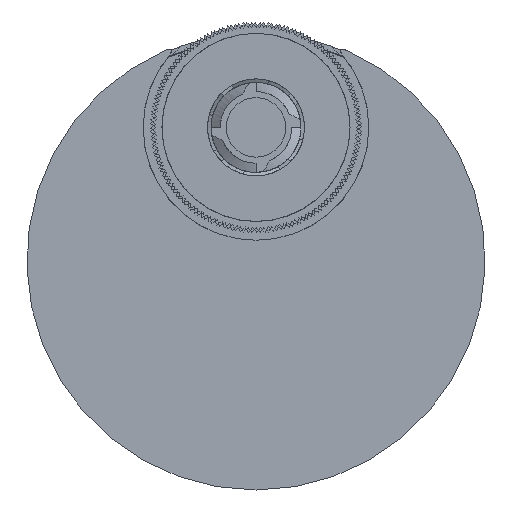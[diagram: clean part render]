
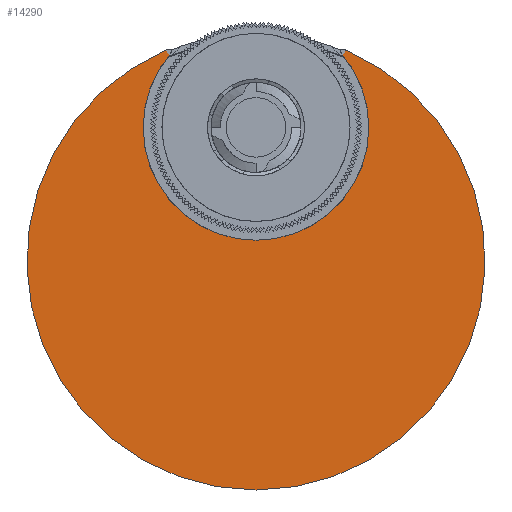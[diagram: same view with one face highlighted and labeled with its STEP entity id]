
A CAD part, front view. The second image highlights one B-rep face of the part: STEP entity #14290.
In plain terms, the highlighted planar face has unit normal (0, -1, 0).
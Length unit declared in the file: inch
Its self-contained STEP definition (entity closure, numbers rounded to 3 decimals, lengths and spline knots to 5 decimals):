
#103 = CARTESIAN_POINT ( 'NONE',  ( 0., 0., 0. ) ) ;
#109 = CARTESIAN_POINT ( 'NONE',  ( -0.56202, 0., 1.33558 ) ) ;
#324 = CARTESIAN_POINT ( 'NONE',  ( -0.54799, 0., 1.36911 ) ) ;
#774 = VERTEX_POINT ( 'NONE', #34705 ) ;
#1577 = CARTESIAN_POINT ( 'NONE',  ( 0.5521, 0., 1.34838 ) ) ;
#3228 = AXIS2_PLACEMENT_3D ( 'NONE', #11727, #14321, #40540 ) ;
#3556 = CARTESIAN_POINT ( 'NONE',  ( 0.5461, 0., 1.36355 ) ) ;
#3673 = AXIS2_PLACEMENT_3D ( 'NONE', #39821, #21041, #20417 ) ;
#3772 = CARTESIAN_POINT ( 'NONE',  ( 0.55652, 0., 1.34216 ) ) ;
#5203 = EDGE_CURVE ( 'NONE', #30100, #41349, #13778, .T. ) ;
#5886 = CARTESIAN_POINT ( 'NONE',  ( -0.54944, 0., 1.35374 ) ) ;
#6211 = DIRECTION ( 'NONE',  ( 0., -1., 0. ) ) ;
#6956 = CARTESIAN_POINT ( 'NONE',  ( 0.54918, 0., 1.3543 ) ) ;
#7176 = CARTESIAN_POINT ( 'NONE',  ( 0.54853, 0., 1.36988 ) ) ;
#7418 = ORIENTED_EDGE ( 'NONE', *, *, #22167, .F. ) ;
#7920 = PLANE ( 'NONE',  #3228 ) ;
#9056 = CARTESIAN_POINT ( 'NONE',  ( -0.55217, 0., 1.34825 ) ) ;
#9781 = CARTESIAN_POINT ( 'NONE',  ( 0., 0., -1.48622 ) ) ;
#10106 = CARTESIAN_POINT ( 'NONE',  ( -0.54767, 0., 1.36857 ) ) ;
#10348 = CARTESIAN_POINT ( 'NONE',  ( 0.56308, 0., 1.37409 ) ) ;
#11148 = CIRCLE ( 'NONE', #3673, 0.73228 ) ;
#11714 = B_SPLINE_CURVE_WITH_KNOTS ( 'NONE', 3,
 ( #109, #38272, #9056, #38488, #35070, #5886, #23756, #13726, #16932, #36746, #33345, #27164, #22914, #10106, #324, #14170, #39968, #29926, #32915 ),
 .UNSPECIFIED., .F., .F.,
 ( 4, 1, 1, 2, 2, 1, 1, 1, 1, 1, 2, 2, 4 ),
 ( 0., 0.25, 0.28125, 0.28516, 0.28906, 0.29687, 0.3125, 0.375, 0.4375, 0.46875, 0.48437, 0.5, 1. ),
 .UNSPECIFIED. ) ;
#11727 = CARTESIAN_POINT ( 'NONE',  ( 0., 0., 0.43307 ) ) ;
#13726 = CARTESIAN_POINT ( 'NONE',  ( -0.54918, 0., 1.3543 ) ) ;
#13778 = CIRCLE ( 'NONE', #25355, 0.73228 ) ;
#14170 = CARTESIAN_POINT ( 'NONE',  ( -0.5482, 0., 1.36944 ) ) ;
#14290 = ADVANCED_FACE ( 'NONE', ( #21324 ), #7920, .F. ) ;
#14321 = DIRECTION ( 'NONE',  ( 0., 1., 0. ) ) ;
#14577 = CARTESIAN_POINT ( 'NONE',  ( 0.5487, 0., 1.35544 ) ) ;
#15542 = CARTESIAN_POINT ( 'NONE',  ( 0., 0., 0.13386 ) ) ;
#16932 = CARTESIAN_POINT ( 'NONE',  ( -0.54884, 0., 1.35506 ) ) ;
#17099 = CARTESIAN_POINT ( 'NONE',  ( -0.56202, 0., 1.33558 ) ) ;
#17765 = CARTESIAN_POINT ( 'NONE',  ( 0.54947, 0., 1.37089 ) ) ;
#17977 = CARTESIAN_POINT ( 'NONE',  ( 0.56202, 0., 1.33558 ) ) ;
#18726 = AXIS2_PLACEMENT_3D ( 'NONE', #103, #23110, #26092 ) ;
#19007 = CARTESIAN_POINT ( 'NONE',  ( 0., 0., 0.86614 ) ) ;
#19251 = ORIENTED_EDGE ( 'NONE', *, *, #5203, .F. ) ;
#19953 = CARTESIAN_POINT ( 'NONE',  ( 0.54953, 0., 1.35353 ) ) ;
#20417 = DIRECTION ( 'NONE',  ( 0., 0., 1. ) ) ;
#21041 = DIRECTION ( 'NONE',  ( 0., -1., 0. ) ) ;
#21110 = CARTESIAN_POINT ( 'NONE',  ( 0.56202, 0., 1.33558 ) ) ;
#21174 = CARTESIAN_POINT ( 'NONE',  ( 0.55079, 0., 1.37194 ) ) ;
#21324 = FACE_OUTER_BOUND ( 'NONE', #24447, .T. ) ;
#22167 = EDGE_CURVE ( 'NONE', #27975, #34517, #38433, .T. ) ;
#22914 = CARTESIAN_POINT ( 'NONE',  ( -0.54725, 0., 1.36772 ) ) ;
#22959 = CARTESIAN_POINT ( 'NONE',  ( 0.54896, 0., 1.35481 ) ) ;
#23110 = DIRECTION ( 'NONE',  ( 0., 1., 0. ) ) ;
#23274 = DIRECTION ( 'NONE',  ( 0., 1., 0. ) ) ;
#23364 = CARTESIAN_POINT ( 'NONE',  ( 0.5477, 0., 1.35797 ) ) ;
#23756 = CARTESIAN_POINT ( 'NONE',  ( -0.54936, 0., 1.35391 ) ) ;
#24378 = CARTESIAN_POINT ( 'NONE',  ( 0.54896, 0., 1.37037 ) ) ;
#24447 = EDGE_LOOP ( 'NONE', ( #39760, #42174, #36232, #19251, #36858, #7418 ) ) ;
#25355 = AXIS2_PLACEMENT_3D ( 'NONE', #19007, #6211, #31172 ) ;
#25970 = EDGE_CURVE ( 'NONE', #41349, #38563, #11148, .T. ) ;
#26092 = DIRECTION ( 'NONE',  ( 0., 0., 1. ) ) ;
#27164 = CARTESIAN_POINT ( 'NONE',  ( -0.5466, 0., 1.36554 ) ) ;
#27416 = EDGE_CURVE ( 'NONE', #774, #38563, #31667, .T. ) ;
#27975 = VERTEX_POINT ( 'NONE', #9781 ) ;
#28703 = EDGE_CURVE ( 'NONE', #30100, #34517, #11714, .T. ) ;
#29926 = CARTESIAN_POINT ( 'NONE',  ( -0.56514, 0., 1.37475 ) ) ;
#30100 = VERTEX_POINT ( 'NONE', #17099 ) ;
#30764 = CARTESIAN_POINT ( 'NONE',  ( 0.54682, 0., 1.3676 ) ) ;
#31172 = DIRECTION ( 'NONE',  ( 0., 0., 1. ) ) ;
#31667 = B_SPLINE_CURVE_WITH_KNOTS ( 'NONE', 3,
 ( #39570, #36578, #10348, #35941, #21174, #17765, #24378, #39165, #7176, #30764, #3556, #23364, #14577, #22959, #6956, #19953, #1577, #3772, #17977 ),
 .UNSPECIFIED., .F., .F.,
 ( 4, 1, 1, 1, 1, 2, 2, 1, 2, 2, 1, 1, 4 ),
 ( 0., 0.25, 0.375, 0.4375, 0.46875, 0.48438, 0.5, 0.625, 0.6875, 0.70313, 0.71875, 0.75, 1. ),
 .UNSPECIFIED. ) ;
#31942 = CIRCLE ( 'NONE', #37381, 1.48622 ) ;
#32915 = CARTESIAN_POINT ( 'NONE',  ( -0.58487, 0., 1.3663 ) ) ;
#33345 = CARTESIAN_POINT ( 'NONE',  ( -0.5466, 0., 1.36184 ) ) ;
#33397 = CARTESIAN_POINT ( 'NONE',  ( -0.58487, 0., 1.3663 ) ) ;
#34517 = VERTEX_POINT ( 'NONE', #33397 ) ;
#34705 = CARTESIAN_POINT ( 'NONE',  ( 0.58487, 0., 1.3663 ) ) ;
#35070 = CARTESIAN_POINT ( 'NONE',  ( -0.5495, 0., 1.35361 ) ) ;
#35941 = CARTESIAN_POINT ( 'NONE',  ( 0.55407, 0., 1.37346 ) ) ;
#36232 = ORIENTED_EDGE ( 'NONE', *, *, #25970, .F. ) ;
#36260 = DIRECTION ( 'NONE',  ( 0., 0., 1. ) ) ;
#36578 = CARTESIAN_POINT ( 'NONE',  ( 0.57503, 0., 1.37051 ) ) ;
#36746 = CARTESIAN_POINT ( 'NONE',  ( -0.54773, 0., 1.3578 ) ) ;
#36858 = ORIENTED_EDGE ( 'NONE', *, *, #28703, .T. ) ;
#37381 = AXIS2_PLACEMENT_3D ( 'NONE', #39477, #23274, #36260 ) ;
#38272 = CARTESIAN_POINT ( 'NONE',  ( -0.55655, 0., 1.34213 ) ) ;
#38433 = CIRCLE ( 'NONE', #18726, 1.48622 ) ;
#38488 = CARTESIAN_POINT ( 'NONE',  ( -0.54976, 0., 1.35304 ) ) ;
#38563 = VERTEX_POINT ( 'NONE', #21110 ) ;
#39165 = CARTESIAN_POINT ( 'NONE',  ( 0.54864, 0., 1.37001 ) ) ;
#39477 = CARTESIAN_POINT ( 'NONE',  ( 0., 0., 0. ) ) ;
#39570 = CARTESIAN_POINT ( 'NONE',  ( 0.58487, 0., 1.3663 ) ) ;
#39733 = EDGE_CURVE ( 'NONE', #774, #27975, #31942, .T. ) ;
#39760 = ORIENTED_EDGE ( 'NONE', *, *, #39733, .F. ) ;
#39821 = CARTESIAN_POINT ( 'NONE',  ( 0., 0., 0.86614 ) ) ;
#39968 = CARTESIAN_POINT ( 'NONE',  ( -0.55296, 0., 1.37586 ) ) ;
#40540 = DIRECTION ( 'NONE',  ( 0., 0., 1. ) ) ;
#41349 = VERTEX_POINT ( 'NONE', #15542 ) ;
#42174 = ORIENTED_EDGE ( 'NONE', *, *, #27416, .T. ) ;
